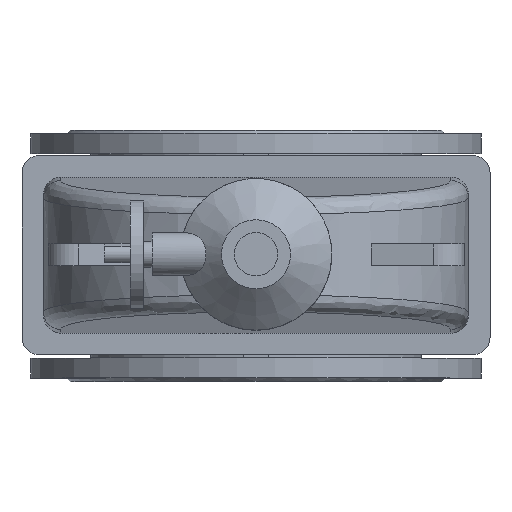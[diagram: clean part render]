
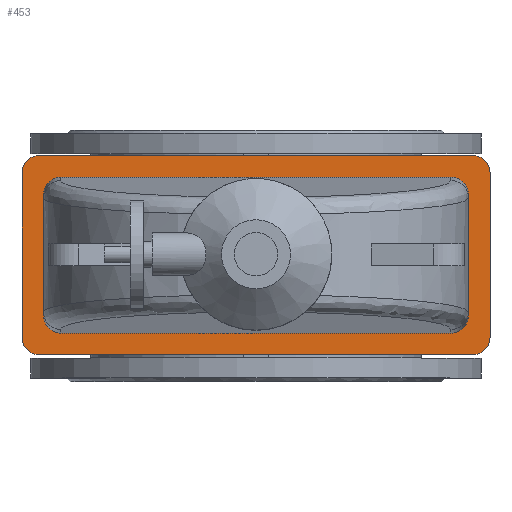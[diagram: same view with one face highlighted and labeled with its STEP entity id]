
A CAD part, top view. The second image highlights one B-rep face of the part: STEP entity #453.
In plain terms, the highlighted planar face has unit normal (0, 0, 1).
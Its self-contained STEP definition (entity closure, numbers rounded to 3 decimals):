
#453=ADVANCED_FACE('',(#3841,#3843),#3845,.T.);
#3841=FACE_BOUND('',#3842,.T.);
#3842=EDGE_LOOP('',(#6574,#6575,#6576,#6577,#6578,#6579,#6580,#6581));
#3843=FACE_BOUND('',#3844,.T.);
#3844=EDGE_LOOP('',(#6582,#6583,#6584,#6585,#6586,#6587,#6588,#6589));
#3845=PLANE('',#3846);
#3846=AXIS2_PLACEMENT_3D('',#3847,#3848,#3849);
#3847=CARTESIAN_POINT('',(0.,0.,586.));
#3848=DIRECTION('',(0.,-0.,1.));
#3849=DIRECTION('',(0.,1.,0.));
#6574=ORIENTED_EDGE('',*,*,#8161,.F.);
#6575=ORIENTED_EDGE('',*,*,#8162,.T.);
#6576=ORIENTED_EDGE('',*,*,#8163,.F.);
#6577=ORIENTED_EDGE('',*,*,#8164,.T.);
#6578=ORIENTED_EDGE('',*,*,#8165,.F.);
#6579=ORIENTED_EDGE('',*,*,#8166,.T.);
#6580=ORIENTED_EDGE('',*,*,#8167,.F.);
#6581=ORIENTED_EDGE('',*,*,#8168,.T.);
#6582=ORIENTED_EDGE('',*,*,#8159,.F.);
#6583=ORIENTED_EDGE('',*,*,#8158,.F.);
#6584=ORIENTED_EDGE('',*,*,#8160,.F.);
#6585=ORIENTED_EDGE('',*,*,#8133,.F.);
#6586=ORIENTED_EDGE('',*,*,#8169,.F.);
#6587=ORIENTED_EDGE('',*,*,#8170,.F.);
#6588=ORIENTED_EDGE('',*,*,#8171,.F.);
#6589=ORIENTED_EDGE('',*,*,#8126,.F.);
#8126=EDGE_CURVE('',#8993,#8995,#8996,.T.);
#8133=EDGE_CURVE('',#9005,#9003,#9007,.T.);
#8158=EDGE_CURVE('',#9046,#9044,#9048,.T.);
#8159=EDGE_CURVE('',#9044,#8993,#9049,.F.);
#8160=EDGE_CURVE('',#9003,#9046,#9050,.T.);
#8161=EDGE_CURVE('',#9051,#9052,#9053,.F.);
#8162=EDGE_CURVE('',#9051,#9054,#9055,.T.);
#8163=EDGE_CURVE('',#9056,#9054,#9057,.F.);
#8164=EDGE_CURVE('',#9056,#9058,#9059,.T.);
#8165=EDGE_CURVE('',#9060,#9058,#9061,.F.);
#8166=EDGE_CURVE('',#9060,#9062,#9063,.T.);
#8167=EDGE_CURVE('',#9064,#9062,#9065,.F.);
#8168=EDGE_CURVE('',#9064,#9052,#9066,.T.);
#8169=EDGE_CURVE('',#9067,#9005,#9068,.F.);
#8170=EDGE_CURVE('',#9069,#9067,#9070,.T.);
#8171=EDGE_CURVE('',#8995,#9069,#9071,.T.);
#8993=VERTEX_POINT('',#10919);
#8995=VERTEX_POINT('',#10923);
#8996=LINE('',#10924,#10925);
#9003=VERTEX_POINT('',#10944);
#9005=VERTEX_POINT('',#10948);
#9007=LINE('',#10952,#10953);
#9044=VERTEX_POINT('',#11045);
#9046=VERTEX_POINT('',#11049);
#9048=LINE('',#11053,#11054);
#9049=(BOUNDED_CURVE()B_SPLINE_CURVE(3,
(#11056,#11057,#11058,#11059),
.UNSPECIFIED.,.F.,.F.)B_SPLINE_CURVE_WITH_KNOTS((4,4),
(0.,1.),
.UNSPECIFIED.)CURVE()GEOMETRIC_REPRESENTATION_ITEM()RATIONAL_B_SPLINE_CURVE((1.,
0.805,0.805,1.))REPRESENTATION_ITEM(''));
#9050=(BOUNDED_CURVE()B_SPLINE_CURVE(3,
(#11060,#11061,#11062,#11063),
.UNSPECIFIED.,.F.,.F.)B_SPLINE_CURVE_WITH_KNOTS((4,4),
(0.,1.),
.UNSPECIFIED.)CURVE()GEOMETRIC_REPRESENTATION_ITEM()RATIONAL_B_SPLINE_CURVE((1.,
0.805,0.805,1.))REPRESENTATION_ITEM(''));
#9051=VERTEX_POINT('',#11064);
#9052=VERTEX_POINT('',#11065);
#9053=CIRCLE('',#11066,20.);
#9054=VERTEX_POINT('',#11070);
#9055=LINE('',#11071,#11072);
#9056=VERTEX_POINT('',#11074);
#9057=CIRCLE('',#11075,20.);
#9058=VERTEX_POINT('',#11079);
#9059=LINE('',#11080,#11081);
#9060=VERTEX_POINT('',#11083);
#9061=CIRCLE('',#11084,20.);
#9062=VERTEX_POINT('',#11088);
#9063=LINE('',#11089,#11090);
#9064=VERTEX_POINT('',#11092);
#9065=CIRCLE('',#11093,20.);
#9066=LINE('',#11097,#11098);
#9067=VERTEX_POINT('',#11100);
#9068=(BOUNDED_CURVE()B_SPLINE_CURVE(3,
(#11101,#11102,#11103,#11104),
.UNSPECIFIED.,.F.,.F.)B_SPLINE_CURVE_WITH_KNOTS((4,4),
(0.,1.),
.UNSPECIFIED.)CURVE()GEOMETRIC_REPRESENTATION_ITEM()RATIONAL_B_SPLINE_CURVE((1.,
0.805,0.805,1.))REPRESENTATION_ITEM(''));
#9069=VERTEX_POINT('',#11105);
#9070=LINE('',#11106,#11107);
#9071=(BOUNDED_CURVE()B_SPLINE_CURVE(3,
(#11109,#11110,#11111,#11112),
.UNSPECIFIED.,.F.,.F.)B_SPLINE_CURVE_WITH_KNOTS((4,4),
(0.,1.),
.UNSPECIFIED.)CURVE()GEOMETRIC_REPRESENTATION_ITEM()RATIONAL_B_SPLINE_CURVE((1.,
0.805,0.805,1.))REPRESENTATION_ITEM(''));
#10919=CARTESIAN_POINT('',(245.,-69.924,586.));
#10923=CARTESIAN_POINT('',(245.,69.924,586.));
#10924=CARTESIAN_POINT('',(245.,-69.924,586.));
#10925=VECTOR('',#10926,1.);
#10926=DIRECTION('',(0.,1.,0.));
#10944=CARTESIAN_POINT('',(-245.,-69.924,586.));
#10948=CARTESIAN_POINT('',(-245.,69.924,586.));
#10952=CARTESIAN_POINT('',(-245.,69.924,586.));
#10953=VECTOR('',#10954,1.);
#10954=DIRECTION('',(0.,-1.,0.));
#11045=CARTESIAN_POINT('',(225.,-90.,586.));
#11049=CARTESIAN_POINT('',(-225.,-90.,586.));
#11053=CARTESIAN_POINT('',(-225.,-90.,586.));
#11054=VECTOR('',#11055,1.);
#11055=DIRECTION('',(1.,0.,0.));
#11056=CARTESIAN_POINT('',(245.,-69.924,586.));
#11057=CARTESIAN_POINT('',(245.,-81.684,586.));
#11058=CARTESIAN_POINT('',(236.716,-90.,586.));
#11059=CARTESIAN_POINT('',(225.,-90.,586.));
#11060=CARTESIAN_POINT('',(-245.,-69.924,586.));
#11061=CARTESIAN_POINT('',(-245.,-81.684,586.));
#11062=CARTESIAN_POINT('',(-236.716,-90.,586.));
#11063=CARTESIAN_POINT('',(-225.,-90.,586.));
#11064=CARTESIAN_POINT('',(-250.,-115.,586.));
#11065=CARTESIAN_POINT('',(-270.,-95.,586.));
#11066=AXIS2_PLACEMENT_3D('',#11067,#11068,#11069);
#11067=CARTESIAN_POINT('',(-250.,-95.,586.));
#11068=DIRECTION('',(0.,-0.,1.));
#11069=DIRECTION('',(-1.,0.,0.));
#11070=CARTESIAN_POINT('',(250.,-115.,586.));
#11071=CARTESIAN_POINT('',(-250.,-115.,586.));
#11072=VECTOR('',#11073,1.);
#11073=DIRECTION('',(1.,0.,0.));
#11074=CARTESIAN_POINT('',(270.,-95.,586.));
#11075=AXIS2_PLACEMENT_3D('',#11076,#11077,#11078);
#11076=CARTESIAN_POINT('',(250.,-95.,586.));
#11077=DIRECTION('',(0.,-0.,1.));
#11078=DIRECTION('',(0.,-1.,0.));
#11079=CARTESIAN_POINT('',(270.,95.,586.));
#11080=CARTESIAN_POINT('',(270.,-95.,586.));
#11081=VECTOR('',#11082,1.);
#11082=DIRECTION('',(0.,1.,0.));
#11083=CARTESIAN_POINT('',(250.,115.,586.));
#11084=AXIS2_PLACEMENT_3D('',#11085,#11086,#11087);
#11085=CARTESIAN_POINT('',(250.,95.,586.));
#11086=DIRECTION('',(0.,-0.,1.));
#11087=DIRECTION('',(1.,0.,0.));
#11088=CARTESIAN_POINT('',(-250.,115.,586.));
#11089=CARTESIAN_POINT('',(250.,115.,586.));
#11090=VECTOR('',#11091,1.);
#11091=DIRECTION('',(-1.,0.,0.));
#11092=CARTESIAN_POINT('',(-270.,95.,586.));
#11093=AXIS2_PLACEMENT_3D('',#11094,#11095,#11096);
#11094=CARTESIAN_POINT('',(-250.,95.,586.));
#11095=DIRECTION('',(0.,-0.,1.));
#11096=DIRECTION('',(0.,1.,0.));
#11097=CARTESIAN_POINT('',(-270.,95.,586.));
#11098=VECTOR('',#11099,1.);
#11099=DIRECTION('',(0.,-1.,0.));
#11100=CARTESIAN_POINT('',(-225.,90.,586.));
#11101=CARTESIAN_POINT('',(-245.,69.924,586.));
#11102=CARTESIAN_POINT('',(-245.,81.684,586.));
#11103=CARTESIAN_POINT('',(-236.716,90.,586.));
#11104=CARTESIAN_POINT('',(-225.,90.,586.));
#11105=CARTESIAN_POINT('',(225.,90.,586.));
#11106=CARTESIAN_POINT('',(225.,90.,586.));
#11107=VECTOR('',#11108,1.);
#11108=DIRECTION('',(-1.,0.,0.));
#11109=CARTESIAN_POINT('',(245.,69.924,586.));
#11110=CARTESIAN_POINT('',(245.,81.684,586.));
#11111=CARTESIAN_POINT('',(236.716,90.,586.));
#11112=CARTESIAN_POINT('',(225.,90.,586.));
